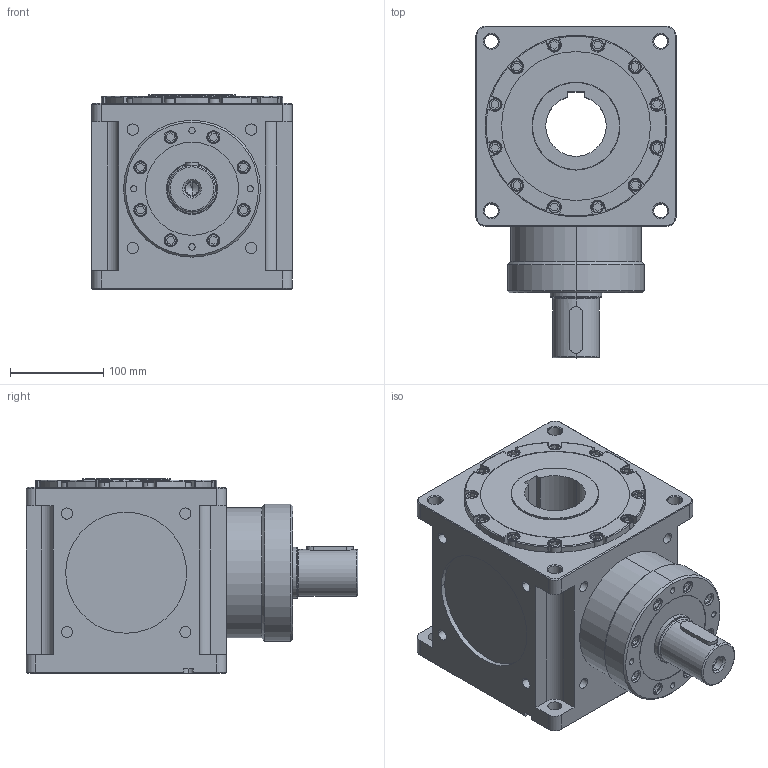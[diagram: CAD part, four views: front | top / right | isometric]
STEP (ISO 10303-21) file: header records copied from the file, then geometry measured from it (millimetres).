
FILE_DESCRIPTION (( 'STEP AP214' ), '1' );
FILE_NAME ('CCT215A-002-CR.STEP', '2025-05-28T06:27:12', ( '微软用户' ), ( '微软中国' ), 'SwSTEP 2.0', 'SolidWorks 2024', '' );
FILE_SCHEMA (( 'AUTOMOTIVE_DESIGN' ));
Length unit declared in the file: millimetre
Products named in the file (3): CCT215A-002-CR; CCW215A-002-CR箱体; CCT215A输入组件
Assembly tree (2 placements, depth 2):
  CCT215A-002-CR
    CCW215A-002-CR箱体
    CCT215A输入组件
Bounding box: 215 x 356.5 x 209 mm (x, y, z)
Volume: 8941218.4 mm3; surface area: 435887.9 mm2
Topology: 2 solids, 2 shells, 682 faces, 1621 edges, 1023 vertices
Faces by surface type: plane 285, cylinder 260, torus 81, cone 32, bspline 24
Entity records: 20694 total; most frequent: CARTESIAN_POINT 4399, DIRECTION 3582, ORIENTED_EDGE 3238, EDGE_CURVE 1619, AXIS2_PLACEMENT_3D 1352, VERTEX_POINT 1023, LINE 878, VECTOR 878
